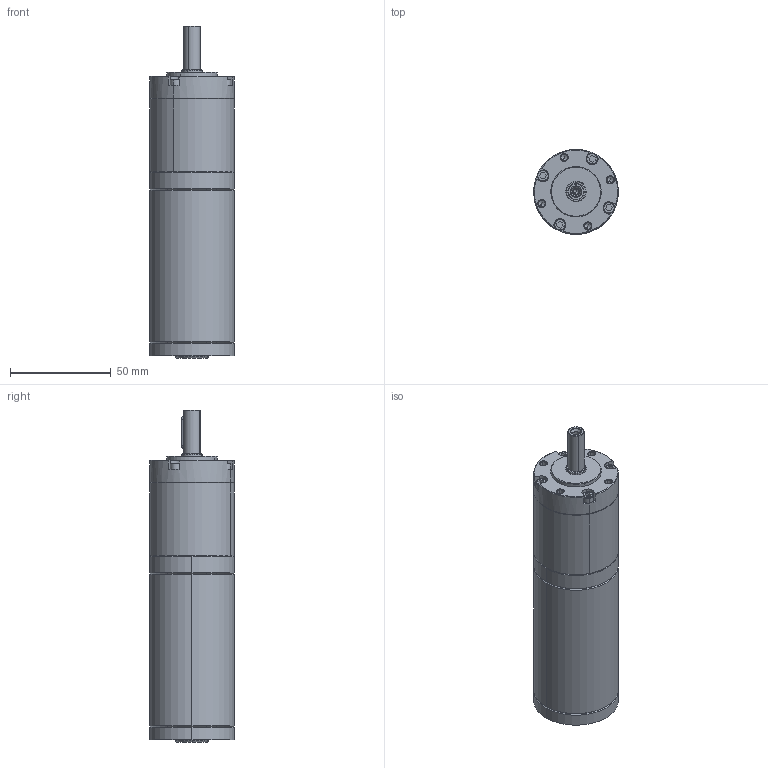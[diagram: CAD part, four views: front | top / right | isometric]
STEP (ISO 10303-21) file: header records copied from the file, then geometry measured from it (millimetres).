
FILE_DESCRIPTION (( 'STEP AP203' ), '1' );
FILE_NAME ('42BLD熬厒掀媼撰淕儂.STEP', '2021-07-16T02:36:39', ( '' ), ( '' ), 'SwSTEP 2.0', 'SolidWorks 2021', '' );
FILE_SCHEMA (( 'CONFIG_CONTROL_DESIGN' ));
Length unit declared in the file: millimetre
Products named in the file (3): 42BLD熬厒掀媼撰淕儂; 42; 42PN媼撰
Assembly tree (2 placements, depth 2):
  42BLD熬厒掀媼撰淕儂
    42
    42PN媼撰
Bounding box: 42 x 42 x 164.9 mm (x, y, z)
Volume: 192583.1 mm3; surface area: 25836.9 mm2
Topology: 2 solids, 2 shells, 163 faces, 390 edges, 237 vertices
Faces by surface type: plane 60, cone 46, cylinder 45, bspline 8, torus 4
Entity records: 5079 total; most frequent: CARTESIAN_POINT 999, DIRECTION 840, ORIENTED_EDGE 760, EDGE_CURVE 380, AXIS2_PLACEMENT_3D 322, VERTEX_POINT 237, VECTOR 196, LINE 196
